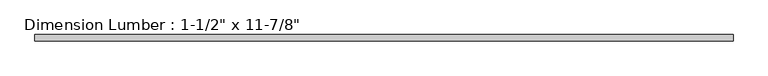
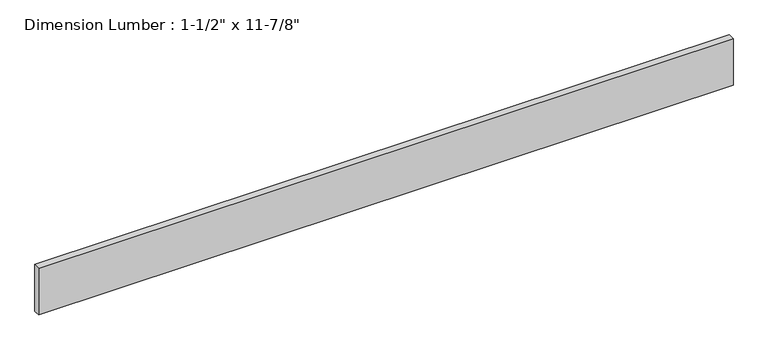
"""IFC4 building model written with IfcOpenShell, lengths in millimetres: beam geometry."""

from ifc_helpers import new_model, si_unit, frame, origin, place, context, project, spatial, polyline, outline, extrude, source, transform, mapped, element, save


def beam_d9c1383f(model_context):
    return source(origin(), model_context, "Body", "SweptSolid", [
        extrude(outline(polyline([(2092.325, 19.05), (2092.325, -19.05), (-2130.425, -19.05), (-2130.425, 19.05), (2092.325, 19.05)])), frame((0.0, 0.0, -150.8125), z_axis=(0.0, 0.0, 1.0), x_axis=(1.0, 0.0, 0.0)), (0.0, 0.0, 1.0), 301.625),
    ])


if __name__ == "__main__":
    model = new_model("IFC4")
    model_context = context("Model", 3, world=origin())
    ifc_project = project(units=[si_unit("LENGTHUNIT", "METRE", prefix="MILLI")], contexts=[model_context])
    site = spatial("IfcSite", under=ifc_project)
    building = spatial("IfcBuilding", under=site)
    placement = place(None, origin())
    beam_shape = beam_d9c1383f(model_context)
    element("IfcBeam", 1, ObjectType="Dimension Lumber : 1-1/2\" x 11-7/8\"", at=placement, inside=building, context=model_context, shape_type="MappedRepresentation", body=[
        mapped(beam_shape, transform((0.0, 0.0, 0.0), x_axis=(1.0, 0.0, 0.0), y_axis=(0.0, 1.0, 0.0), z_axis=(0.0, 0.0, 1.0))),
    ])
    save(model, "model.ifc")
